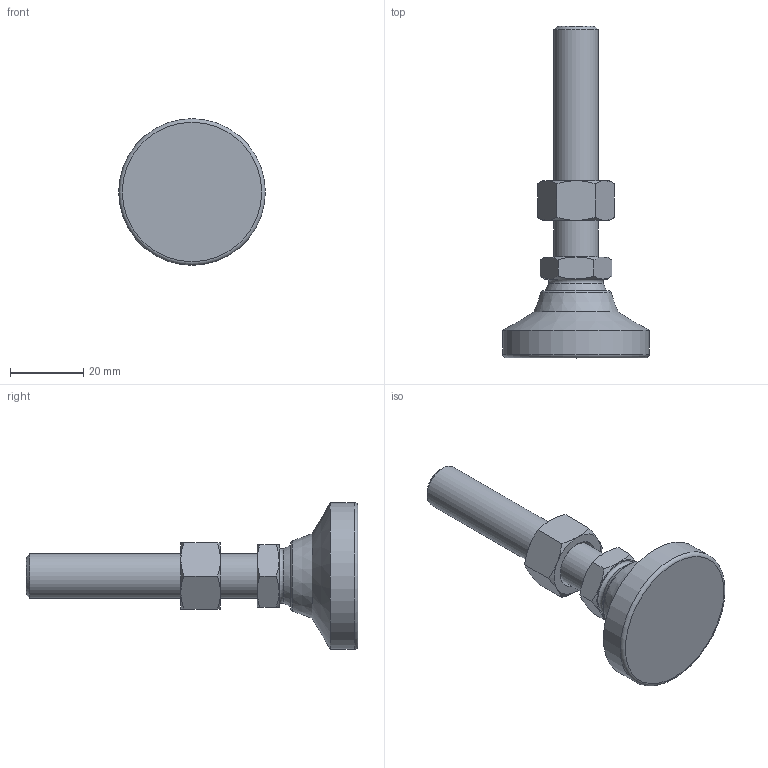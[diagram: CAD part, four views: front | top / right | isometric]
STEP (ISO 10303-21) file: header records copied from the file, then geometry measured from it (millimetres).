
FILE_DESCRIPTION( ( 'STEP AP214' ), ' ' );
FILE_NAME( 'O:/ganter_2015/teil_2/2_5/gn343_2/gn343_2_kr/Levelling foot with threaded stud GN 343.2-40-M12-63-KR-(0).stp', '2015-10-26T09:13:12', ( '' ), ( '' ), ' ', 'PARTsolutions', ' ' );
FILE_SCHEMA( ( 'AUTOMOTIVE_DESIGN { 1 0 10303 214 1 1 1 1 }' ) );
Length unit declared in the file: millimetre
Products named in the file (4): Levelling foot with threaded stud GN 343.2-40-M12-63-KR-(0); _Levelling foot with threaded stud GN 343.2-40-M12-63-KR-(0)_foot; _Levelling foot with threaded stud GN 343.2-40-M12-63-KR-(0)_screw; _Levelling foot with threaded stud GN 343.2-40-M12-63-KR-(0)_nut
Assembly tree (3 placements, depth 2):
  Levelling foot with threaded stud GN 343.2-40-M12-63-KR-(0)
    _Levelling foot with threaded stud GN 343.2-40-M12-63-KR-(0)_foot
    _Levelling foot with threaded stud GN 343.2-40-M12-63-KR-(0)_screw
    _Levelling foot with threaded stud GN 343.2-40-M12-63-KR-(0)_nut
Bounding box: 40 x 90.5 x 40 mm (x, y, z)
Volume: 26692.2 mm3; surface area: 9335.8 mm2
Topology: 3 solids, 3 shells, 56 faces, 117 edges, 68 vertices
Faces by surface type: cone 29, plane 19, torus 3, cylinder 3, sphere 2
Full cylindrical faces by diameter (mm): 10.106 x1, 12 x1, 40 x1
Entity records: 2066 total; most frequent: CARTESIAN_POINT 498, DIRECTION 212, ORIENTED_EDGE 200, AXIS2_PLACEMENT_3D 100, EDGE_CURVE 100, EDGE_LOOP 72, VERTEX_POINT 66, FACE_OUTER_BOUND 62
